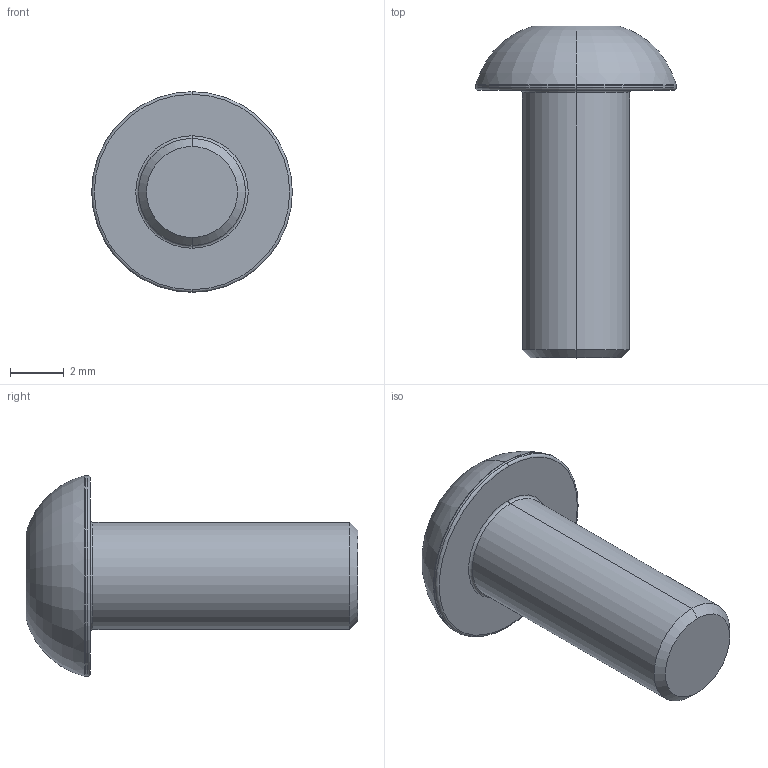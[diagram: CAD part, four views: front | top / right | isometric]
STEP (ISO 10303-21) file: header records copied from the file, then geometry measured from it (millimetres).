
FILE_DESCRIPTION (( 'STEP AP203' ), '1' );
FILE_NAME ('LGDD-TD-M4x10.STEP', '2026-08-14T01:22:18', ( '' ), ( '' ), 'SwSTEP 2.0', 'SolidWorks 2020', '' );
FILE_SCHEMA (( 'CONFIG_CONTROL_DESIGN' ));
Length unit declared in the file: millimetre
Products named in the file (1): LGDD-TD-M4x10
Bounding box: 7.5 x 12.4 x 7.5 mm (x, y, z)
Volume: 192.3 mm3; surface area: 251.4 mm2
Topology: 1 solids, 1 shells, 31 faces, 59 edges, 32 vertices
Faces by surface type: plane 10, cone 9, torus 8, cylinder 4
Entity records: 864 total; most frequent: CARTESIAN_POINT 154, DIRECTION 149, ORIENTED_EDGE 118, AXIS2_PLACEMENT_3D 65, EDGE_CURVE 59, EDGE_LOOP 33, CIRCLE 33, VERTEX_POINT 32
